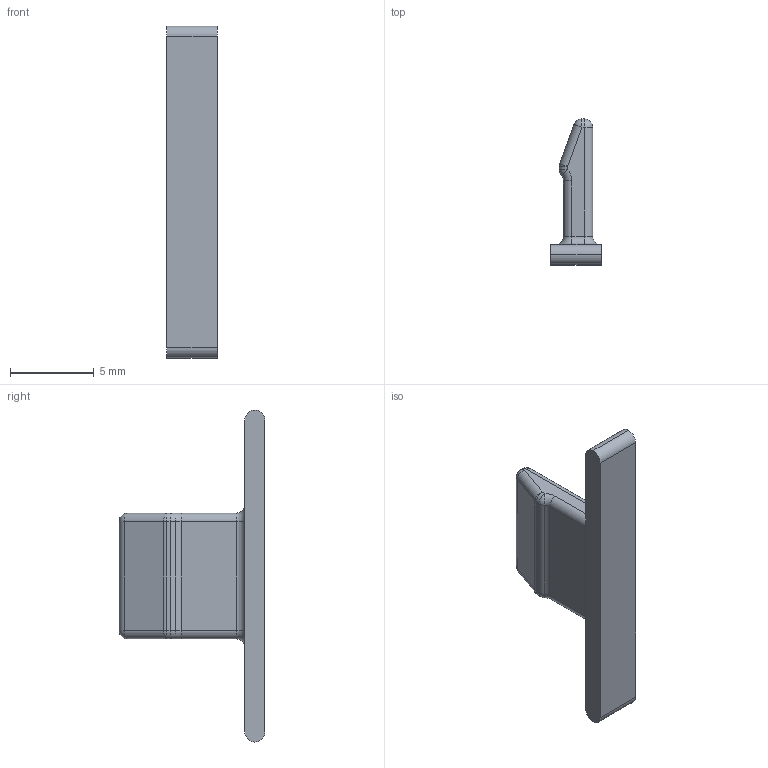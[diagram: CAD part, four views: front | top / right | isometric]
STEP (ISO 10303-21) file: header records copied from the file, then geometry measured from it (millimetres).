
FILE_DESCRIPTION (( 'STEP AP214' ), '1' );
FILE_NAME ('SENSOR16_CLIP1.STEP', '2026-02-17T20:27:45', ( '' ), ( '' ), 'SwSTEP 2.0', 'SolidWorks 2021', '' );
FILE_SCHEMA (( 'AUTOMOTIVE_DESIGN' ));
Length unit declared in the file: millimetre
Products named in the file (1): SENSOR16_CLIP1
Bounding box: 3 x 8.7 x 19.8 mm (x, y, z)
Volume: 163.5 mm3; surface area: 290.8 mm2
Topology: 1 solids, 1 shells, 48 faces, 106 edges, 56 vertices
Faces by surface type: cylinder 23, plane 11, sphere 8, torus 6
Entity records: 1306 total; most frequent: DIRECTION 254, CARTESIAN_POINT 207, ORIENTED_EDGE 204, AXIS2_PLACEMENT_3D 103, EDGE_CURVE 102, VERTEX_POINT 56, CIRCLE 54, VECTOR 48
